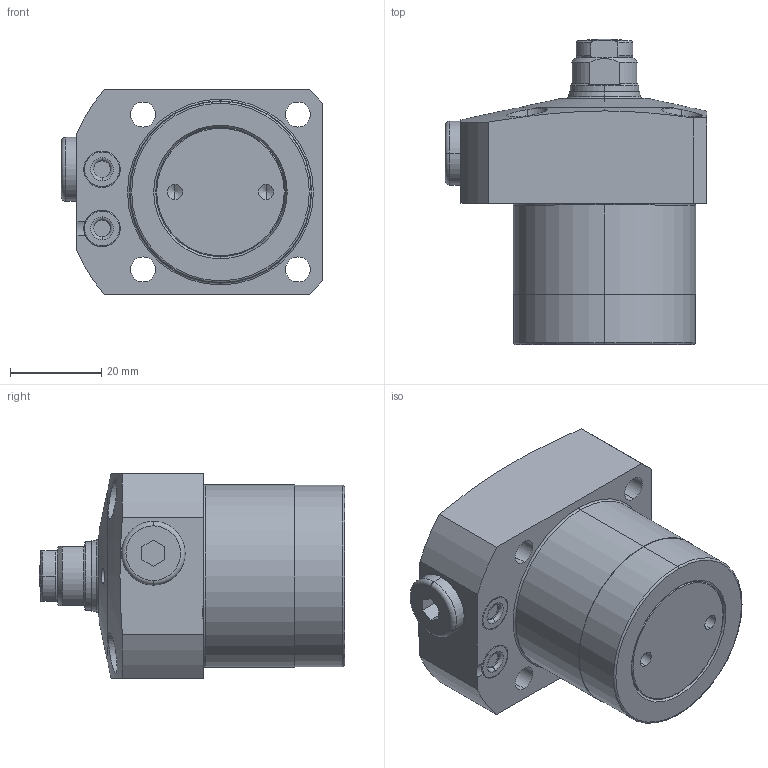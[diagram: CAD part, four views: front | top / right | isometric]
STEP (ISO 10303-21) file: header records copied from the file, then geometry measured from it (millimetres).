
FILE_DESCRIPTION(/* description */ (''),/* implementation_level */ '2;1');
FILE_NAME(/* name */ 'KFSC40.stp',/* time_stamp */ '2026-02-04T15:04:33+08:00',/* author */ (''),/* organization */ (''),/* preprocessor_version */ 'ST-DEVELOPER v16.7',/* originating_system */ 'SIEMENS PLM Software NX 12.0',/* authorisation */ '');
FILE_SCHEMA (('AUTOMOTIVE_DESIGN { 1 0 10303 214 3 1 1 1 }'));
Length unit declared in the file: millimetre
Products named in the file (8): XLC-M10_contactbolt; XLC-M10_Oring; KFSC40-01; KFSC40-02; P5-1; KFSC40-04; KFSC40-03; LC0403-Cx_step
Assembly tree (8 placements, depth 3):
  LC0403-Cx_step
    KFSC40-04
    KFSC40-03
      XLC-M10_Oring
      XLC-M10_contactbolt
    P5-1  x2
    KFSC40-02
    KFSC40-01
Bounding box: 57.5 x 67 x 45 mm (x, y, z)
Volume: 87181.1 mm3; surface area: 17973 mm2
Topology: 7 solids, 7 shells, 236 faces, 518 edges, 312 vertices
Faces by surface type: cylinder 79, torus 60, plane 54, cone 41, sphere 2
Entity records: 6753 total; most frequent: CARTESIAN_POINT 1405, DIRECTION 1197, ORIENTED_EDGE 972, AXIS2_PLACEMENT_3D 518, EDGE_CURVE 486, VERTEX_POINT 298, CIRCLE 285, EDGE_LOOP 260
